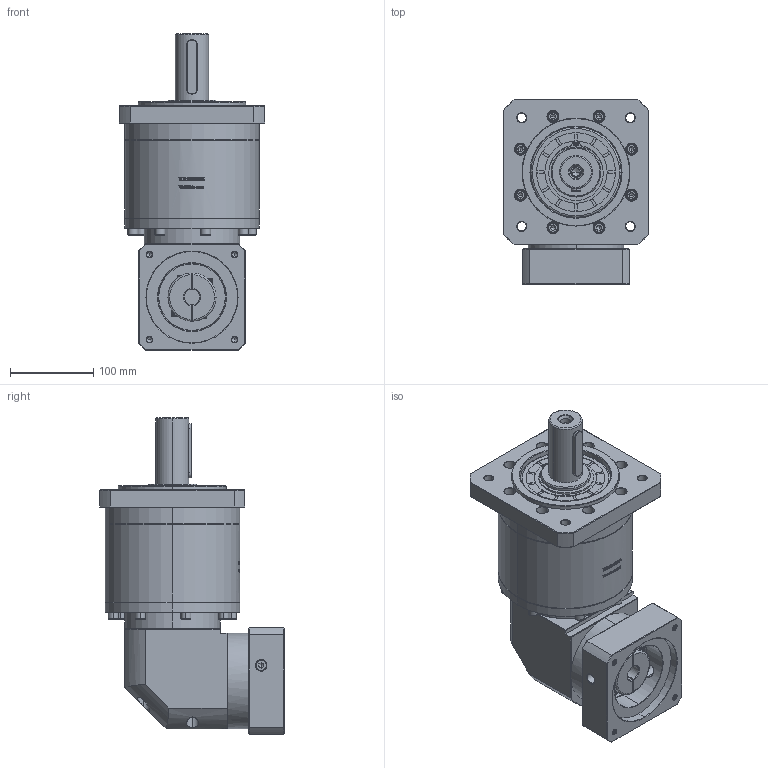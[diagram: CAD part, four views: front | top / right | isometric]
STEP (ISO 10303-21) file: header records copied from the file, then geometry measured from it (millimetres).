
FILE_DESCRIPTION (( 'STEP AP214' ), '1' );
FILE_NAME ('ZFR160A-D40-L3-19-110-145-M8.step', '2023-03-25T01:56:10', ( '' ), ( '' ), 'SwSTEP 2.0', 'SolidWorks 2016', '' );
FILE_SCHEMA (( 'AUTOMOTIVE_DESIGN' ));
Length unit declared in the file: millimetre
Products named in the file (1): ZFR160A-D40-L3-19-110-145-M8
Bounding box: 175 x 222.4 x 381.2 mm (x, y, z)
Volume: 5727941.5 mm3; surface area: 367125.3 mm2
Topology: 6 solids, 6 shells, 2783 faces, 7251 edges, 4641 vertices
Faces by surface type: plane 1373, bspline 498, cylinder 496, cone 370, torus 46
Entity records: 150081 total; most frequent: CARTESIAN_POINT 55587, ORIENTED_EDGE 14394, DIRECTION 11367, EDGE_CURVE 7197, VERTEX_POINT 4641, VECTOR 4501, LINE 4501, AXIS2_PLACEMENT_3D 3433
